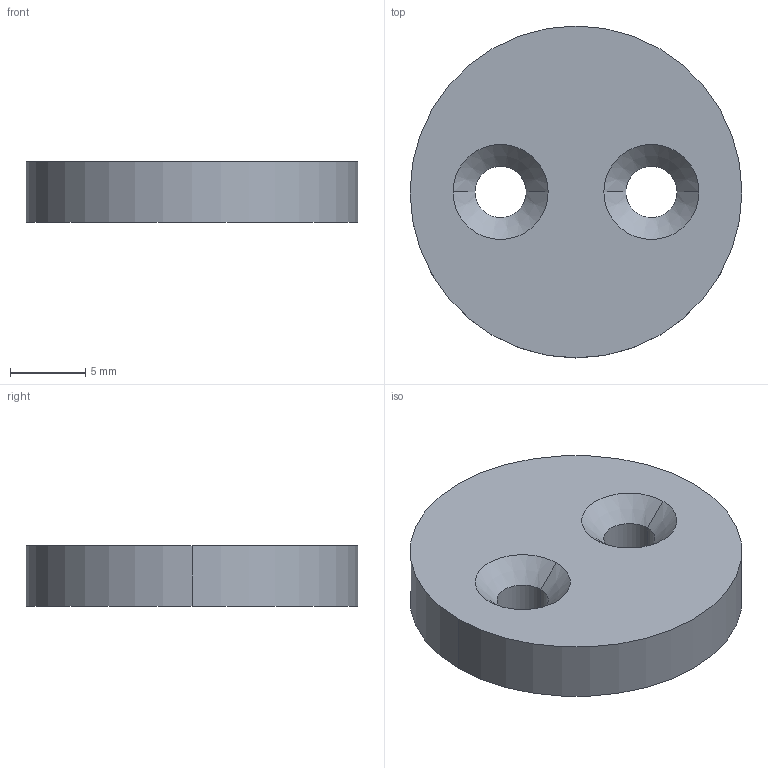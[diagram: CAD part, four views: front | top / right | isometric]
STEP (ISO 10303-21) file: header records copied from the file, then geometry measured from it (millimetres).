
FILE_DESCRIPTION (( 'STEP AP203' ), '1' );
FILE_NAME ('stepper-support-shaft-cover.STEP', '2024-07-01T06:57:08', ( '' ), ( '' ), 'SwSTEP 2.0', 'SolidWorks 2021', '' );
FILE_SCHEMA (( 'CONFIG_CONTROL_DESIGN' ));
Length unit declared in the file: millimetre
Products named in the file (1): stepper-support-shaft-cover
Bounding box: 22 x 22 x 4 mm (x, y, z)
Volume: 1419.1 mm3; surface area: 1073.2 mm2
Topology: 1 solids, 1 shells, 12 faces, 26 edges, 16 vertices
Faces by surface type: cylinder 6, cone 4, plane 2
Entity records: 419 total; most frequent: DIRECTION 68, CARTESIAN_POINT 55, ORIENTED_EDGE 52, AXIS2_PLACEMENT_3D 29, EDGE_CURVE 26, VERTEX_POINT 16, EDGE_LOOP 16, CIRCLE 16
